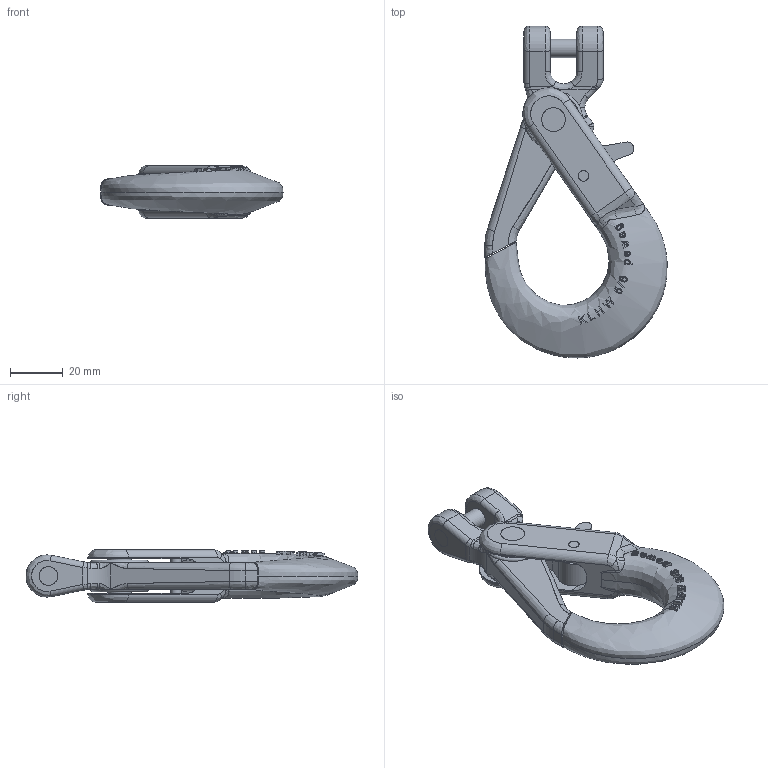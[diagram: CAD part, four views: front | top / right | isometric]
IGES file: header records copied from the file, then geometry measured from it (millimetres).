
Global section: file name: L:\users\SC\3D Kundenmodelle\UG Zg der Ableitung G100\KLHW Kundenmodell\KLHW 5_6 Kundenmodell\pewag_KLHW_5-6.igs; native system: NX V4.0; preprocessor: UGS NX IGES V4.0; date: 20100204.094407; units: millimetre
Bounding box: 69.05 x 125.72 x 20 mm (x, y, z)
Surface area: 20423 mm2 (no closed solid volume)
Topology: 0 solids, 0 shells, 385 faces, 2368 edges, 2353 vertices
Faces by surface type: bspline 373, offset 12
